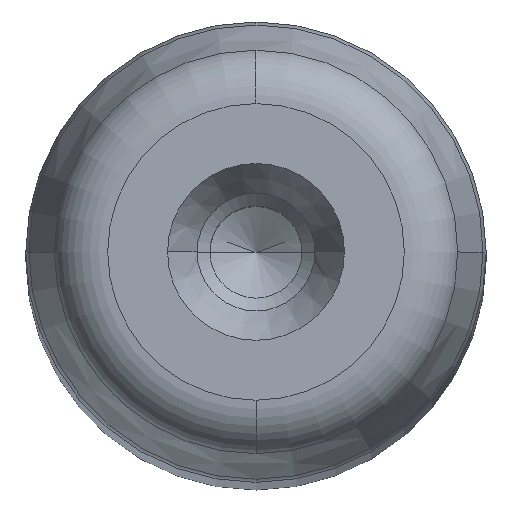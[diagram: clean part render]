
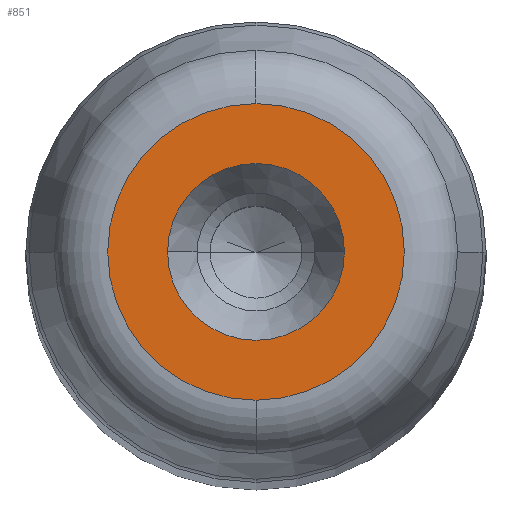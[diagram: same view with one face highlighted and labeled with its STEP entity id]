
A CAD part, top view. The second image highlights one B-rep face of the part: STEP entity #851.
In plain terms, the highlighted planar face has unit normal (0, 0, 1) as drawn and (0, 1, 0) by its records, which use the part's own axes.
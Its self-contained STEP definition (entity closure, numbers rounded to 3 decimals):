
#281=CARTESIAN_POINT('',(4.8,250.0,0.0));
#282=VERTEX_POINT('',#281);
#289=CARTESIAN_POINT('',(-4.8,250.0,0.));
#290=VERTEX_POINT('',#289);
#291=CARTESIAN_POINT('',(0.0,250.0,0.0));
#292=DIRECTION('',(0.0,1.0,0.0));
#293=DIRECTION('',(1.0,0.0,0.0));
#294=AXIS2_PLACEMENT_3D('',#291,#292,#293);
#295=CIRCLE('',#294,4.8);
#296=EDGE_CURVE('',#282,#290,#295,.T.);
#313=CARTESIAN_POINT('',(0.0,250.,8.054));
#314=VERTEX_POINT('',#313);
#324=CARTESIAN_POINT('',(0.,250.,-8.054));
#325=VERTEX_POINT('',#324);
#326=CARTESIAN_POINT('',(0.0,250.,0.0));
#327=DIRECTION('',(0.0,1.0,0.0));
#328=DIRECTION('',(1.0,0.0,0.0));
#329=AXIS2_PLACEMENT_3D('',#326,#327,#328);
#330=CIRCLE('',#329,8.054);
#331=EDGE_CURVE('',#325,#314,#330,.T.);
#812=CARTESIAN_POINT('',(8.054,250.,0.0));
#813=VERTEX_POINT('',#812);
#814=CARTESIAN_POINT('',(0.0,250.,0.0));
#815=DIRECTION('',(0.0,1.0,0.0));
#816=DIRECTION('',(1.0,0.0,0.0));
#817=AXIS2_PLACEMENT_3D('',#814,#815,#816);
#818=CIRCLE('',#817,8.054);
#819=EDGE_CURVE('',#813,#325,#818,.T.);
#821=CARTESIAN_POINT('',(0.0,250.,0.0));
#822=DIRECTION('',(0.0,1.0,0.0));
#823=DIRECTION('',(1.0,0.0,0.0));
#824=AXIS2_PLACEMENT_3D('',#821,#822,#823);
#825=CIRCLE('',#824,8.054);
#826=EDGE_CURVE('',#314,#813,#825,.T.);
#831=CARTESIAN_POINT('',(-8.86,250.0,-8.86));
#832=DIRECTION('',(0.0,1.0,0.0));
#833=DIRECTION('',(0.0,0.0,1.0));
#834=AXIS2_PLACEMENT_3D('',#831,#832,#833);
#835=PLANE('',#834);
#836=ORIENTED_EDGE('',*,*,#819,.T.);
#837=ORIENTED_EDGE('',*,*,#331,.T.);
#838=ORIENTED_EDGE('',*,*,#826,.T.);
#839=EDGE_LOOP('',(#836,#837,#838));
#840=FACE_OUTER_BOUND('',#839,.T.);
#841=ORIENTED_EDGE('',*,*,#296,.F.);
#842=CARTESIAN_POINT('',(0.0,250.0,0.0));
#843=DIRECTION('',(0.0,1.0,0.0));
#844=DIRECTION('',(1.0,0.0,0.0));
#845=AXIS2_PLACEMENT_3D('',#842,#843,#844);
#846=CIRCLE('',#845,4.8);
#847=EDGE_CURVE('',#290,#282,#846,.T.);
#848=ORIENTED_EDGE('',*,*,#847,.F.);
#849=EDGE_LOOP('',(#841,#848));
#850=FACE_BOUND('',#849,.T.);
#851=ADVANCED_FACE('',(#840,#850),#835,.T.);
